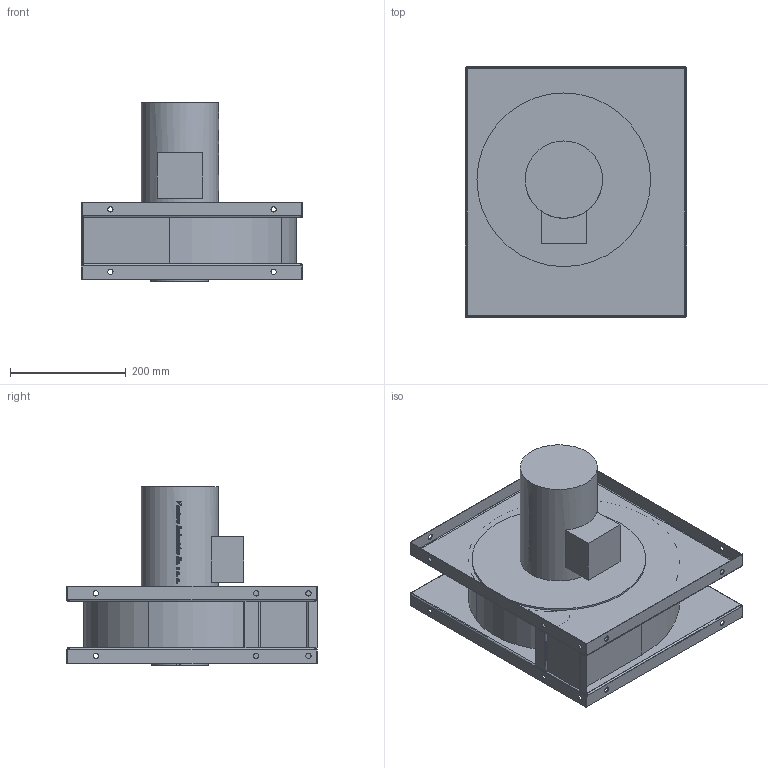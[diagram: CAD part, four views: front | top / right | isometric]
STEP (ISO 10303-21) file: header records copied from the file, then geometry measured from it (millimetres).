
FILE_DESCRIPTION(/* description */ (''),/* implementation_level */ '2;1');
FILE_NAME(/* name */ 'T:\BAZA\BAZA\Modele uproszczone\GMT\GMT_60_037S_RD90_42551500\GMT_60_037S_RD90_42551500.stp',/* time_stamp */ '2016-07-19T11:02:26+02:00',/* author */ ('piotrk'),/* organization */ (''),/* preprocessor_version */ 'ST-DEVELOPER v16.5',/* originating_system */ 'Autodesk Inventor 2017',/* authorisation */ '');
FILE_SCHEMA (('AUTOMOTIVE_DESIGN { 1 0 10303 214 3 1 1 }'));
Length unit declared in the file: centimetre
Products named in the file (1): GMT-60-037
Bounding box: 382 x 432 x 308 mm (x, y, z)
Volume: 12841611.2 mm3; surface area: 825290.5 mm2
Topology: 1 solids, 1 shells, 805 faces, 2244 edges, 1486 vertices
Faces by surface type: bspline 414, plane 303, cylinder 88
Full cylindrical faces by diameter (mm): 9.2 x18, 133.6 x1, 300 x1
Entity records: 31901 total; most frequent: CARTESIAN_POINT 13759, ORIENTED_EDGE 4410, DIRECTION 2427, EDGE_CURVE 2205, VERTEX_POINT 1475, LINE 1099, VECTOR 1099, EDGE_LOOP 910
